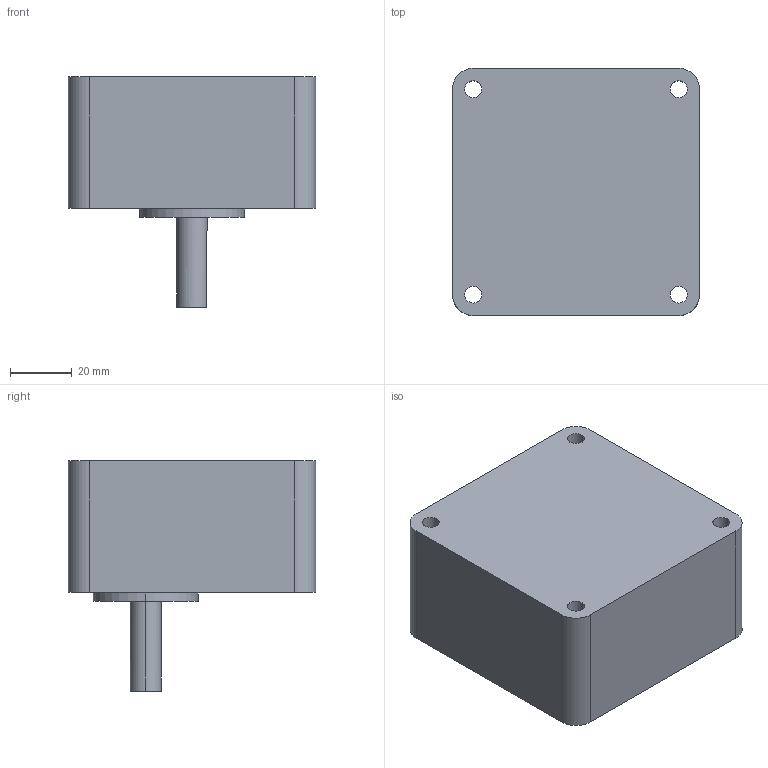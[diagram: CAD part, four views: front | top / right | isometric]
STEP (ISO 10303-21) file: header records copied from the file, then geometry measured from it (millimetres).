
FILE_DESCRIPTION (( 'STEP AP203' ), '1' );
FILE_NAME ('A1895B.step', '2024-04-25T09:23:44', ( '' ), ( '' ), 'SwSTEP 2.0', 'SolidWorks 2023', '' );
FILE_SCHEMA (( 'CONFIG_CONTROL_DESIGN' ));
Length unit declared in the file: millimetre
Products named in the file (1): A1895B
Bounding box: 80 x 80 x 74.5 mm (x, y, z)
Volume: 268421.1 mm3; surface area: 30170.2 mm2
Topology: 1 solids, 1 shells, 31 faces, 78 edges, 52 vertices
Faces by surface type: cylinder 19, plane 12
Entity records: 1068 total; most frequent: CARTESIAN_POINT 192, DIRECTION 177, ORIENTED_EDGE 156, EDGE_CURVE 78, AXIS2_PLACEMENT_3D 69, VERTEX_POINT 52, EDGE_LOOP 42, LINE 39
